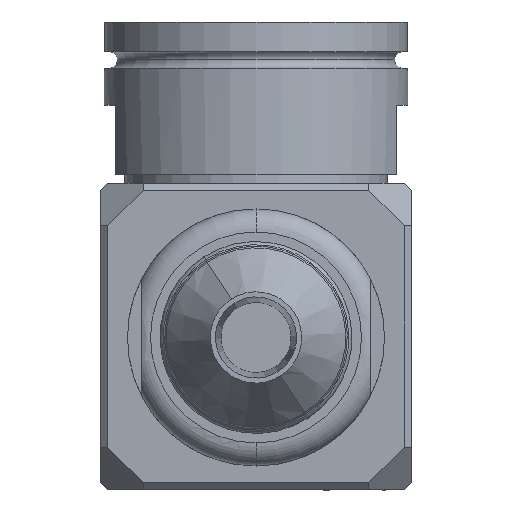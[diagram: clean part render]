
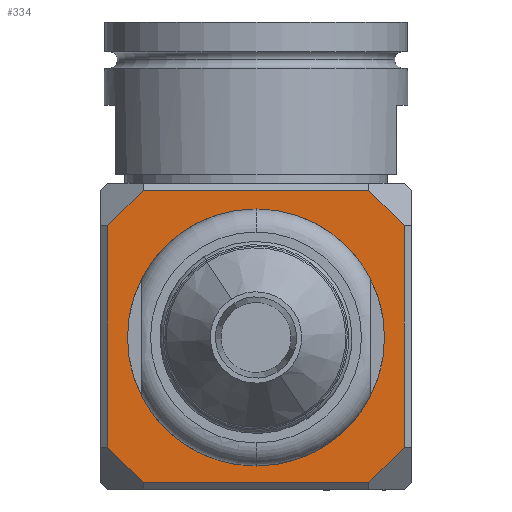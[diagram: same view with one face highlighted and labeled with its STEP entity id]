
A CAD part, front view. The second image highlights one B-rep face of the part: STEP entity #334.
In plain terms, the highlighted planar face has unit normal (0, -1, 0).
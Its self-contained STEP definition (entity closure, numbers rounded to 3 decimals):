
#19 = CARTESIAN_POINT ( 'NONE',  ( 0., -22.161, -34.963 ) ) ;
#62 = EDGE_CURVE ( 'NONE', #11938, #7751, #6761, .T. ) ;
#326 = VECTOR ( 'NONE', #6645, 1000. ) ;
#334 = ADVANCED_FACE ( 'NONE', ( #8350, #12152 ), #3575, .T. ) ;
#356 = CIRCLE ( 'NONE', #10161, 16.929 ) ;
#525 = EDGE_CURVE ( 'NONE', #6025, #5685, #8090, .T. ) ;
#821 = CARTESIAN_POINT ( 'NONE',  ( 9.296, -22.161, -61.188 ) ) ;
#1033 = CARTESIAN_POINT ( 'NONE',  ( 15.544, -22.161, -54.94 ) ) ;
#1311 = CARTESIAN_POINT ( 'NONE',  ( 0., -22.161, -34.963 ) ) ;
#1434 = ORIENTED_EDGE ( 'NONE', *, *, #5569, .T. ) ;
#1654 = CARTESIAN_POINT ( 'NONE',  ( 21.399, -22.161, -54.94 ) ) ;
#1686 = EDGE_CURVE ( 'NONE', #5685, #6229, #7032, .T. ) ;
#1705 = DIRECTION ( 'NONE',  ( 0., 0., -1. ) ) ;
#1859 = CARTESIAN_POINT ( 'NONE',  ( 0., -22.161, -51.892 ) ) ;
#1972 = AXIS2_PLACEMENT_3D ( 'NONE', #6276, #11038, #1705 ) ;
#2099 = ORIENTED_EDGE ( 'NONE', *, *, #62, .T. ) ;
#2116 = EDGE_LOOP ( 'NONE', ( #4919, #1434 ) ) ;
#2192 = VERTEX_POINT ( 'NONE', #3383 ) ;
#2492 = VECTOR ( 'NONE', #4121, 1000. ) ;
#2595 = CARTESIAN_POINT ( 'NONE',  ( -15.544, -22.161, -54.94 ) ) ;
#2692 = ORIENTED_EDGE ( 'NONE', *, *, #3371, .T. ) ;
#2724 = VERTEX_POINT ( 'NONE', #1033 ) ;
#2812 = VECTOR ( 'NONE', #2998, 1000. ) ;
#2998 = DIRECTION ( 'NONE',  ( 0., 0., 1. ) ) ;
#3110 = DIRECTION ( 'NONE',  ( 0., 1., 0. ) ) ;
#3371 = EDGE_CURVE ( 'NONE', #2724, #11938, #4633, .T. ) ;
#3383 = CARTESIAN_POINT ( 'NONE',  ( 15.544, -22.161, -14.732 ) ) ;
#3436 = EDGE_CURVE ( 'NONE', #6229, #2724, #10225, .T. ) ;
#3508 = CARTESIAN_POINT ( 'NONE',  ( -20.383, -22.161, -50.101 ) ) ;
#3575 = PLANE ( 'NONE',  #1972 ) ;
#3711 = LINE ( 'NONE', #11362, #326 ) ;
#3760 = DIRECTION ( 'NONE',  ( 0., 1., 0. ) ) ;
#3822 = ORIENTED_EDGE ( 'NONE', *, *, #10927, .T. ) ;
#3942 = CARTESIAN_POINT ( 'NONE',  ( 20.383, -22.161, -13.716 ) ) ;
#3992 = DIRECTION ( 'NONE',  ( 0., 0., -1. ) ) ;
#4043 = CARTESIAN_POINT ( 'NONE',  ( 20.383, -22.161, -50.101 ) ) ;
#4121 = DIRECTION ( 'NONE',  ( 1., 0., 0. ) ) ;
#4260 = EDGE_CURVE ( 'NONE', #7751, #2192, #10951, .T. ) ;
#4355 = AXIS2_PLACEMENT_3D ( 'NONE', #19, #3760, #8539 ) ;
#4633 = LINE ( 'NONE', #821, #4670 ) ;
#4670 = VECTOR ( 'NONE', #8474, 1000. ) ;
#4919 = ORIENTED_EDGE ( 'NONE', *, *, #5543, .T. ) ;
#5375 = DIRECTION ( 'NONE',  ( -0.707, 0., 0.707 ) ) ;
#5543 = EDGE_CURVE ( 'NONE', #6905, #12255, #356, .T. ) ;
#5569 = EDGE_CURVE ( 'NONE', #12255, #6905, #7354, .T. ) ;
#5685 = VERTEX_POINT ( 'NONE', #3508 ) ;
#5932 = DIRECTION ( 'NONE',  ( 0., 0., 1. ) ) ;
#6025 = VERTEX_POINT ( 'NONE', #7040 ) ;
#6185 = VERTEX_POINT ( 'NONE', #12288 ) ;
#6229 = VERTEX_POINT ( 'NONE', #2595 ) ;
#6276 = CARTESIAN_POINT ( 'NONE',  ( 0., -22.161, -51.892 ) ) ;
#6558 = ORIENTED_EDGE ( 'NONE', *, *, #1686, .T. ) ;
#6645 = DIRECTION ( 'NONE',  ( -1., 0., 0. ) ) ;
#6654 = EDGE_LOOP ( 'NONE', ( #7719, #6558, #6674, #2692, #2099, #7692, #11328, #3822 ) ) ;
#6674 = ORIENTED_EDGE ( 'NONE', *, *, #3436, .T. ) ;
#6761 = LINE ( 'NONE', #3942, #2812 ) ;
#6905 = VERTEX_POINT ( 'NONE', #8714 ) ;
#7032 = LINE ( 'NONE', #7100, #9778 ) ;
#7040 = CARTESIAN_POINT ( 'NONE',  ( -20.383, -22.161, -19.571 ) ) ;
#7100 = CARTESIAN_POINT ( 'NONE',  ( -9.296, -22.161, -61.188 ) ) ;
#7137 = CARTESIAN_POINT ( 'NONE',  ( -20.383, -22.161, -55.956 ) ) ;
#7354 = CIRCLE ( 'NONE', #4355, 16.929 ) ;
#7598 = DIRECTION ( 'NONE',  ( -0.707, 0., -0.707 ) ) ;
#7659 = CARTESIAN_POINT ( 'NONE',  ( -26.352, -22.161, -25.54 ) ) ;
#7692 = ORIENTED_EDGE ( 'NONE', *, *, #4260, .T. ) ;
#7719 = ORIENTED_EDGE ( 'NONE', *, *, #525, .T. ) ;
#7751 = VERTEX_POINT ( 'NONE', #8299 ) ;
#7768 = VECTOR ( 'NONE', #3992, 1000. ) ;
#8074 = VECTOR ( 'NONE', #5375, 1000. ) ;
#8090 = LINE ( 'NONE', #7137, #7768 ) ;
#8299 = CARTESIAN_POINT ( 'NONE',  ( 20.383, -22.161, -19.571 ) ) ;
#8350 = FACE_BOUND ( 'NONE', #2116, .T. ) ;
#8474 = DIRECTION ( 'NONE',  ( 0.707, 0., 0.707 ) ) ;
#8539 = DIRECTION ( 'NONE',  ( 0., 0., 1. ) ) ;
#8714 = CARTESIAN_POINT ( 'NONE',  ( 0., -22.161, -18.034 ) ) ;
#9018 = CARTESIAN_POINT ( 'NONE',  ( 26.352, -22.161, -25.54 ) ) ;
#9778 = VECTOR ( 'NONE', #10722, 1000. ) ;
#10161 = AXIS2_PLACEMENT_3D ( 'NONE', #1311, #3110, #5932 ) ;
#10225 = LINE ( 'NONE', #1654, #2492 ) ;
#10722 = DIRECTION ( 'NONE',  ( 0.707, 0., -0.707 ) ) ;
#10927 = EDGE_CURVE ( 'NONE', #6185, #6025, #11537, .T. ) ;
#10951 = LINE ( 'NONE', #9018, #8074 ) ;
#11013 = EDGE_CURVE ( 'NONE', #2192, #6185, #3711, .T. ) ;
#11038 = DIRECTION ( 'NONE',  ( 0., -1., 0. ) ) ;
#11328 = ORIENTED_EDGE ( 'NONE', *, *, #11013, .T. ) ;
#11362 = CARTESIAN_POINT ( 'NONE',  ( -21.399, -22.161, -14.732 ) ) ;
#11537 = LINE ( 'NONE', #7659, #11540 ) ;
#11540 = VECTOR ( 'NONE', #7598, 1000. ) ;
#11938 = VERTEX_POINT ( 'NONE', #4043 ) ;
#12152 = FACE_OUTER_BOUND ( 'NONE', #6654, .T. ) ;
#12255 = VERTEX_POINT ( 'NONE', #1859 ) ;
#12288 = CARTESIAN_POINT ( 'NONE',  ( -15.544, -22.161, -14.732 ) ) ;
